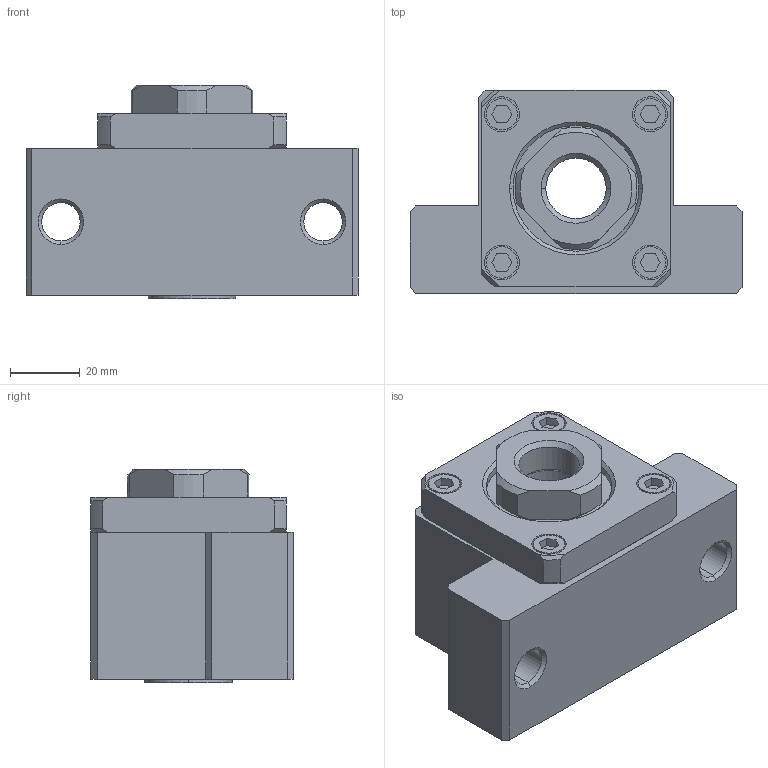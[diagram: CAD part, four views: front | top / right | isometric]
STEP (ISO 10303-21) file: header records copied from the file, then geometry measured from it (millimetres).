
FILE_DESCRIPTION (( 'STEP AP203' ), '1' );
FILE_NAME ('2.4017 Kuularuuvin tukilaakeri EK20.STEP', '2024-05-30T08:06:19', ( '' ), ( '' ), 'SwSTEP 2.0', 'SolidWorks 2024', '' );
FILE_SCHEMA (( 'CONFIG_CONTROL_DESIGN' ));
Length unit declared in the file: millimetre
Products named in the file (1): 2.4017 Kuularuuvin tukilaakeri EK20
Bounding box: 95 x 58 x 61 mm (x, y, z)
Volume: 189452.2 mm3; surface area: 33024.4 mm2
Topology: 3 solids, 3 shells, 168 faces, 404 edges, 264 vertices
Faces by surface type: plane 84, cylinder 52, cone 30, torus 2
Entity records: 5173 total; most frequent: CARTESIAN_POINT 1124, DIRECTION 826, ORIENTED_EDGE 808, EDGE_CURVE 404, AXIS2_PLACEMENT_3D 300, VERTEX_POINT 264, VECTOR 226, LINE 226
